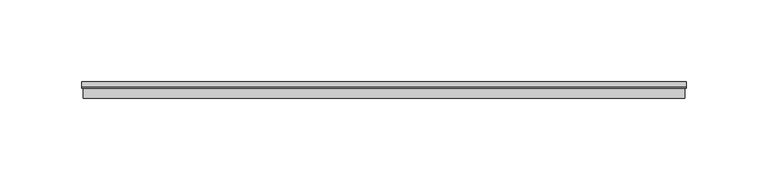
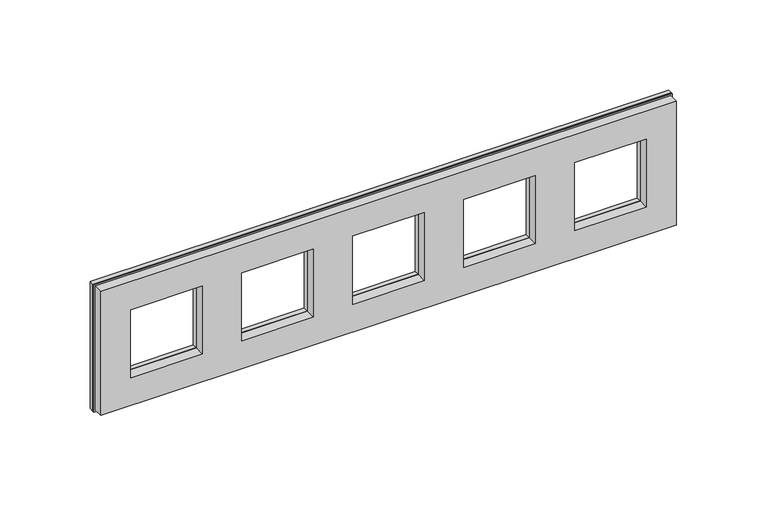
"""IFC4 building model written with IfcOpenShell, lengths in millimetres: proxy geometry, IEK_Skandy_Рамка : x5_SK-F25B."""

from ifc_helpers import new_model, si_unit, frame, origin, place, context, project, spatial, polyline, outline, extrude, faceted_brep, source, transform, mapped, element, save


def electrical_fixtures_64208359(model_context):
    return source(origin(), model_context, "Body", "SolidModel", [
        extrude(outline(polyline([(43.0, -327.0), (-43.0, -327.0), (-43.0, 43.0), (43.0, 43.0), (43.0, -327.0)]), holes=[polyline([(23.0, -23.0), (23.0, 23.0), (-23.0, 23.0), (-23.0, -23.0), (23.0, -23.0)]), polyline([(23.0, -307.0), (23.0, -261.0), (-23.0, -261.0), (-23.0, -307.0), (23.0, -307.0)]), polyline([(23.0, -236.0), (23.0, -190.0), (-23.0, -190.0), (-23.0, -236.0), (23.0, -236.0)]), polyline([(23.0, -165.0), (23.0, -119.0), (-23.0, -119.0), (-23.0, -165.0), (23.0, -165.0)]), polyline([(23.0, -94.0), (23.0, -48.0), (-23.0, -48.0), (-23.0, -94.0), (23.0, -94.0)])]), frame((0.0, 7.0, 0.0), z_axis=(0.0, 1.0, 0.0), x_axis=(0.0, 0.0, 1.0)), (0.0, 0.0, 1.0), 3.0),
        faceted_brep([(-236.0, 0.0, 23.0), (-236.0, 7.0, 23.0), (-190.0, 7.0, 23.0), (-190.0, 0.0, 23.0), (-190.0, 7.0, -23.0), (-190.0, 0.0, -23.0), (-236.0, 7.0, -23.0), (-236.0, 0.0, -23.0), (-327.0, 7.0, 43.0), (43.0, 7.0, 43.0), (43.0, 7.0, -43.0), (-327.0, 7.0, -43.0), (-119.0, 7.0, 23.0), (-165.0, 7.0, 23.0), (-165.0, 7.0, -23.0), (-119.0, 7.0, -23.0), (-261.0, 7.0, 23.0), (-307.0, 7.0, 23.0), (-307.0, 7.0, -23.0), (-261.0, 7.0, -23.0), (-48.0, 7.0, 23.0), (-94.0, 7.0, 23.0), (-94.0, 7.0, -23.0), (-48.0, 7.0, -23.0), (23.0, 7.0, 23.0), (-23.0, 7.0, 23.0), (-23.0, 7.0, -23.0), (23.0, 7.0, -23.0), (-326.0, 0.0, 42.0), (-326.0, 0.0, -42.0), (42.0, 0.0, -42.0), (42.0, 0.0, 42.0), (-165.0, 0.0, 23.0), (-119.0, 0.0, 23.0), (-119.0, 0.0, -23.0), (-165.0, 0.0, -23.0), (-307.0, 0.0, 23.0), (-261.0, 0.0, 23.0), (-261.0, 0.0, -23.0), (-307.0, 0.0, -23.0), (-94.0, 0.0, 23.0), (-48.0, 0.0, 23.0), (-48.0, 0.0, -23.0), (-94.0, 0.0, -23.0), (-23.0, 0.0, 23.0), (23.0, 0.0, 23.0), (23.0, 0.0, -23.0), (-23.0, 0.0, -23.0), (-326.0, 6.0, 42.0), (-326.0, 6.0, -42.0), (42.0, 6.0, -42.0), (42.0, 6.0, 42.0), (-327.0, 6.0, 43.0), (-327.0, 6.0, -43.0), (43.0, 6.0, -43.0), (43.0, 6.0, 43.0)], [[[0, 1, 2, 3]], [[3, 2, 4, 5]], [[5, 4, 6, 7]], [[1, 0, 7, 6]], [[8, 9, 10, 11], [2, 1, 6, 4], [12, 13, 14, 15], [16, 17, 18, 19], [20, 21, 22, 23], [24, 25, 26, 27]], [[28, 29, 30, 31], [0, 3, 5, 7], [32, 33, 34, 35], [36, 37, 38, 39], [40, 41, 42, 43], [44, 45, 46, 47]], [[29, 28, 48, 49]], [[30, 29, 49, 50]], [[31, 30, 50, 51]], [[28, 31, 51, 48]], [[32, 13, 12, 33]], [[33, 12, 15, 34]], [[34, 15, 14, 35]], [[13, 32, 35, 14]], [[36, 17, 16, 37]], [[37, 16, 19, 38]], [[38, 19, 18, 39]], [[17, 36, 39, 18]], [[40, 21, 20, 41]], [[41, 20, 23, 42]], [[42, 23, 22, 43]], [[21, 40, 43, 22]], [[44, 25, 24, 45]], [[45, 24, 27, 46]], [[46, 27, 26, 47]], [[25, 44, 47, 26]], [[52, 53, 54, 55], [49, 48, 51, 50]], [[53, 52, 8, 11]], [[54, 53, 11, 10]], [[55, 54, 10, 9]], [[52, 55, 9, 8]]]),
    ])


if __name__ == "__main__":
    model = new_model("IFC4")
    model_context = context("Model", 3, world=origin())
    ifc_project = project(units=[si_unit("LENGTHUNIT", "METRE", prefix="MILLI")], contexts=[model_context])
    site = spatial("IfcSite", under=ifc_project)
    building = spatial("IfcBuilding", under=site)
    placement = place(None, origin())
    electrical_fixtures_shape = electrical_fixtures_64208359(model_context)
    element("IfcBuildingElementProxy", 1, Name="IEK_Skandy_Рамка : x5_SK-F25B", ObjectType="IEK_Skandy_Рамка : x5_SK-F25B", at=placement, inside=building, context=model_context, shape_type="MappedRepresentation", body=[
        mapped(electrical_fixtures_shape, transform((0.0, 0.0, 0.0), x_axis=(1.0, 0.0, 0.0), y_axis=(0.0, 1.0, 0.0), z_axis=(0.0, 0.0, 1.0))),
    ])
    save(model, "model.ifc")
